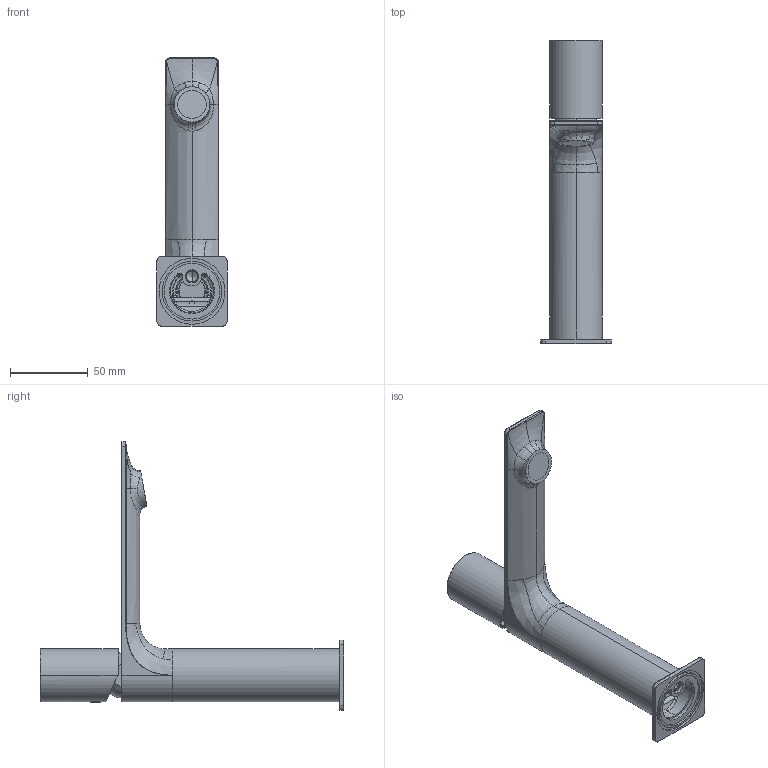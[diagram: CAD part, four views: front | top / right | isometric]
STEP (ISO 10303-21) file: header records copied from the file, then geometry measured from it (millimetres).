
FILE_DESCRIPTION((''),'2;1');
FILE_NAME('78050S_SW0001','2020-05-21T11:55:13',('volponeff'),(''),'CREO PARAMETRIC BY PTC INC, 2018100','CREO PARAMETRIC BY PTC INC, 2018100','');
FILE_SCHEMA(('CONFIG_CONTROL_DESIGN'));
Length unit declared in the file: millimetre
Products named in the file (1): 78050S_SW0001
Bounding box: 45 x 195 x 172.5 mm (x, y, z)
Volume: 108448.9 mm3; surface area: 66065.8 mm2
Topology: 1 solids, 2 shells, 399 faces, 960 edges, 564 vertices
Faces by surface type: cylinder 130, bspline 94, plane 86, cone 47, torus 36, extrusion 4, sphere 2
Entity records: 18460 total; most frequent: CARTESIAN_POINT 9785, ORIENTED_EDGE 1884, DIRECTION 1707, EDGE_CURVE 942, AXIS2_PLACEMENT_3D 703, VERTEX_POINT 564, EDGE_LOOP 428, CIRCLE 402
